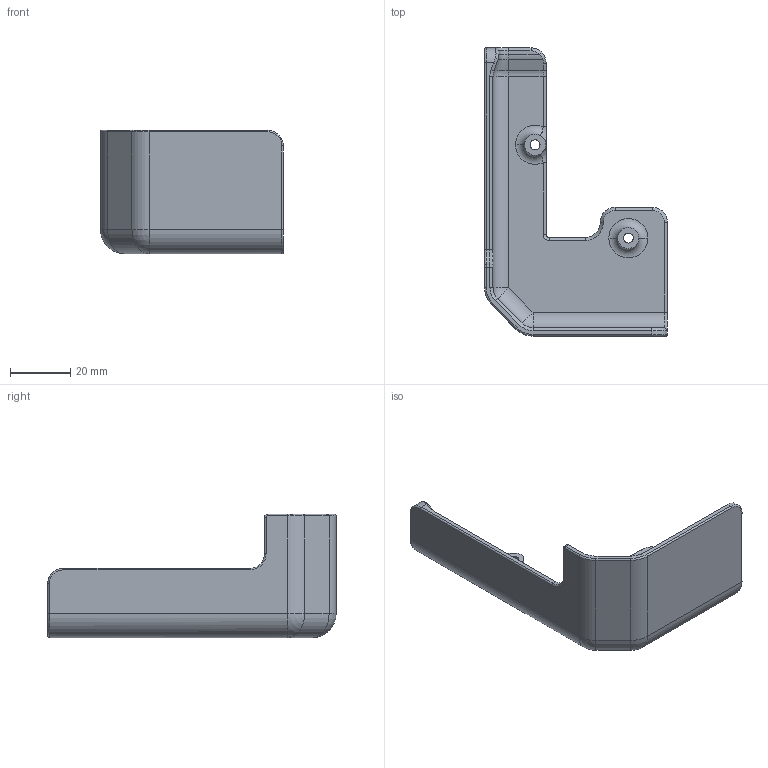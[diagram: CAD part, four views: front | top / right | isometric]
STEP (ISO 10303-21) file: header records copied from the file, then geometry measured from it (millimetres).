
FILE_DESCRIPTION(('CATIA V5 STEP Exchange'),'2;1');
FILE_NAME('E:\Dropbox\3D Printer Fan Duct Designs\1.) Artillery Sidewinder X1\3D Models\5015 Double Ducts\HEMERA MATRIX\BONUS_CLIP_DOUBLE FAN\COVER_MOTOR_DOUBLE-FAN\Cover Motor Without Fan.stp','2022-01-08T19:36:56+00:00',('none'),('none'),'CATIA Version 5 Release 20 SP 1 (IN-10)','CATIA V5 STEP AP214','none');
FILE_SCHEMA(('AUTOMOTIVE_DESIGN { 1 0 10303 214 1 1 1 1 }'));
Length unit declared in the file: millimetre
Products named in the file (1): COVER_MOTORE_ESTRUSORE
Bounding box: 60.8 x 95.8 x 41 mm (x, y, z)
Volume: 20710 mm3; surface area: 15831 mm2
Topology: 1 solids, 1 shells, 213 faces, 524 edges, 314 vertices
Faces by surface type: plane 92, cylinder 58, torus 20, cone 18, extrusion 11, bspline 8, sphere 6
Entity records: 7161 total; most frequent: CARTESIAN_POINT 2422, ORIENTED_EDGE 1036, DIRECTION 819, EDGE_CURVE 518, AXIS2_PLACEMENT_3D 327, VERTEX_POINT 314, VECTOR 310, LINE 299
